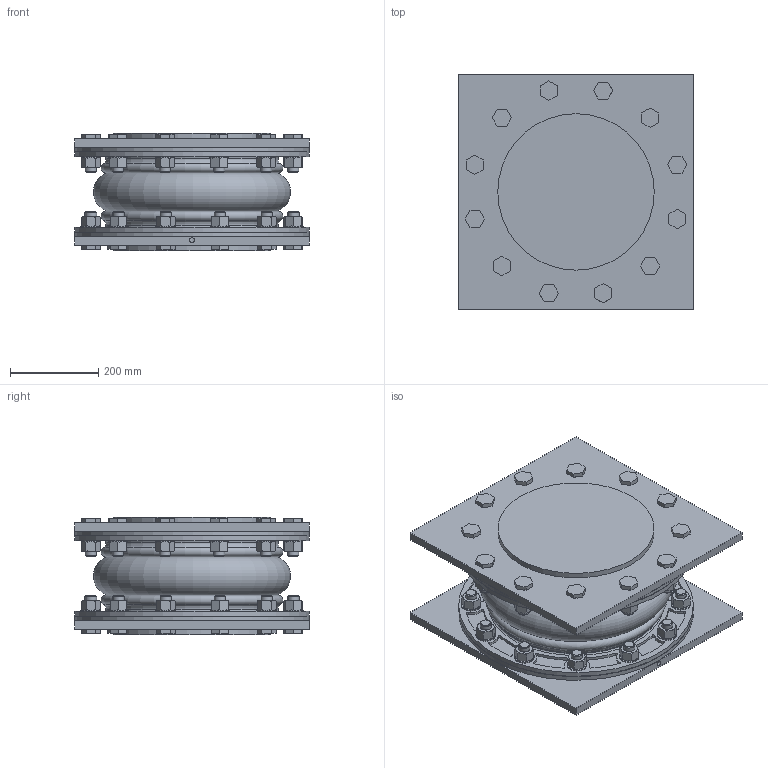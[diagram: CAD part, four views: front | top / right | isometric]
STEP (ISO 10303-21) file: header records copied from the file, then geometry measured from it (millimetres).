
FILE_DESCRIPTION(/* description */ (''),/* implementation_level */ '2;1');
FILE_NAME(/* name */ '\\Mleuckthor2\cad-proe_solids\WEBSITE FILES 05.22.13\STEP\451AS\451AS-14.stp',/* time_stamp */ '2016-01-18T22:46:04-05:00',/* author */ ('rramoutar'),/* organization */ ('Mason Industries Inc.'),/* preprocessor_version */ 'ST-DEVELOPER v15.6',/* originating_system */ 'Autodesk Inventor 2015',/* authorisation */ '');
FILE_SCHEMA (('CONFIG_CONTROL_DESIGN'));
Products named in the file (1): 451AS-14
Bounding box: 533.4 x 533.4 x 266.7 mm (x, y, z)
Volume: 24015215.1 mm3; surface area: 4085415 mm2
Topology: 80 solids, 82 shells, 2076 faces, 4781 edges, 2958 vertices
Faces by surface type: plane 894, cylinder 576, cone 384, bspline 180, torus 42
Full cylindrical faces by diameter (mm): 11.112 x1, 21.971 x24, 25.4 x29, 25.959 x24, 26.975 x24, 28.575 x216, 38.1 x24, 44.45 x24, 154.051 x1, 168.275 x1, 355.6 x4, 379.603 x2, 382.587 x2, 387.35 x2, 392.112 x2, 533.4 x4
Entity records: 58624 total; most frequent: CARTESIAN_POINT 13464, DIRECTION 8548, ORIENTED_EDGE 8356, EDGE_CURVE 4178, AXIS2_PLACEMENT_3D 3417, EDGE_LOOP 2950, VERTEX_POINT 2878, STYLED_ITEM 2156
